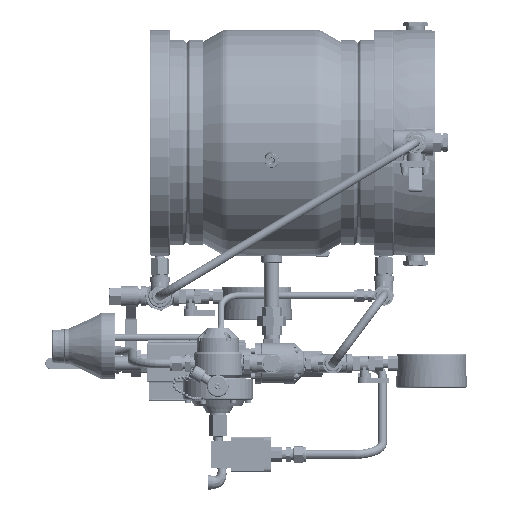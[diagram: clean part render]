
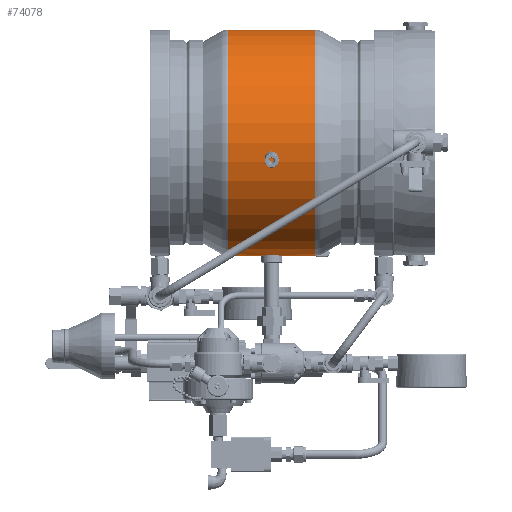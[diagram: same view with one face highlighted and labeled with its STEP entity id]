
A CAD part, front view. The second image highlights one B-rep face of the part: STEP entity #74078.
In plain terms, the highlighted cylindrical face has radius 162 mm (diameter 324 mm), a full revolution.
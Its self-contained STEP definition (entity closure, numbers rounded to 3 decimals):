
#2623=B_SPLINE_CURVE_WITH_KNOTS('',3,(#132989,#132990,#132991,#132992,#132993,
#132994,#132995,#132996,#132997,#132998,#132999,#133000,#133001,#133002,
#133003,#133004,#133005,#133006),.UNSPECIFIED.,.F.,.F.,(4,2,2,2,2,2,2,2,
4),(2.111,2.638,3.166,3.694,
4.221,4.749,5.276,5.804,6.332),
 .UNSPECIFIED.);
#2624=B_SPLINE_CURVE_WITH_KNOTS('',3,(#133007,#133008,#133009,#133010,#133011,
#133012,#133013,#133014,#133015,#133016,#133017,#133018,#133019,#133020,
#133021,#133022,#133023,#133024,#133025),.UNSPECIFIED.,.F.,.F.,(4,2,2,2,
3,2,2,2,4),(6.332,6.859,7.387,7.915,
8.442,8.97,9.498,10.025,10.553),
 .UNSPECIFIED.);
#3602=CYLINDRICAL_SURFACE('',#83139,162.);
#18590=FACE_BOUND('',#28273,.T.);
#18591=FACE_BOUND('',#28274,.T.);
#22425=FACE_OUTER_BOUND('',#28272,.T.);
#28272=EDGE_LOOP('',(#64072));
#28273=EDGE_LOOP('',(#64073,#64074));
#28274=EDGE_LOOP('',(#64075));
#32107=CIRCLE('',#83138,162.);
#32108=CIRCLE('',#83140,162.);
#38015=VERTEX_POINT('',#132987);
#38016=VERTEX_POINT('',#132988);
#38038=VERTEX_POINT('',#133121);
#38039=VERTEX_POINT('',#133124);
#47067=EDGE_CURVE('',#38015,#38016,#2623,.T.);
#47068=EDGE_CURVE('',#38016,#38015,#2624,.T.);
#47090=EDGE_CURVE('',#38038,#38038,#32107,.T.);
#47091=EDGE_CURVE('',#38039,#38039,#32108,.T.);
#64072=ORIENTED_EDGE('',*,*,#47091,.F.);
#64073=ORIENTED_EDGE('',*,*,#47067,.T.);
#64074=ORIENTED_EDGE('',*,*,#47068,.T.);
#64075=ORIENTED_EDGE('',*,*,#47090,.F.);
#74078=ADVANCED_FACE('',(#22425,#18590,#18591),#3602,.T.);
#83138=AXIS2_PLACEMENT_3D('',#133122,#99801,#99802);
#83139=AXIS2_PLACEMENT_3D('',#133123,#99803,#99804);
#83140=AXIS2_PLACEMENT_3D('',#133125,#99805,#99806);
#99801=DIRECTION('center_axis',(1.,0.,0.));
#99802=DIRECTION('ref_axis',(0.,-1.,0.));
#99803=DIRECTION('center_axis',(1.,0.,0.));
#99804=DIRECTION('ref_axis',(0.,1.,0.));
#99805=DIRECTION('center_axis',(-1.,0.,0.));
#99806=DIRECTION('ref_axis',(0.,-1.,0.));
#132987=CARTESIAN_POINT('',(144.282,-79.384,162.));
#132988=CARTESIAN_POINT('',(172.282,-79.384,162.));
#132989=CARTESIAN_POINT('Ctrl Pts',(144.282,-79.384,
162.));
#132990=CARTESIAN_POINT('Ctrl Pts',(144.282,-77.625,
162.));
#132991=CARTESIAN_POINT('Ctrl Pts',(144.634,-75.75,
161.968));
#132992=CARTESIAN_POINT('Ctrl Pts',(146.063,-72.301,161.854));
#132993=CARTESIAN_POINT('Ctrl Pts',(147.14,-70.727,
161.773));
#132994=CARTESIAN_POINT('Ctrl Pts',(149.625,-68.242,
161.621));
#132995=CARTESIAN_POINT('Ctrl Pts',(151.199,-67.165,
161.54));
#132996=CARTESIAN_POINT('Ctrl Pts',(154.648,-65.736,
161.426));
#132997=CARTESIAN_POINT('Ctrl Pts',(156.524,-65.384,
161.394));
#132998=CARTESIAN_POINT('Ctrl Pts',(160.041,-65.384,
161.394));
#132999=CARTESIAN_POINT('Ctrl Pts',(161.917,-65.736,
161.426));
#133000=CARTESIAN_POINT('Ctrl Pts',(165.366,-67.165,
161.54));
#133001=CARTESIAN_POINT('Ctrl Pts',(166.939,-68.242,
161.621));
#133002=CARTESIAN_POINT('Ctrl Pts',(169.424,-70.727,
161.773));
#133003=CARTESIAN_POINT('Ctrl Pts',(170.502,-72.301,
161.854));
#133004=CARTESIAN_POINT('Ctrl Pts',(171.931,-75.75,
161.968));
#133005=CARTESIAN_POINT('Ctrl Pts',(172.282,-77.625,
162.));
#133006=CARTESIAN_POINT('Ctrl Pts',(172.282,-79.384,
162.));
#133007=CARTESIAN_POINT('Ctrl Pts',(172.282,-79.384,
162.));
#133008=CARTESIAN_POINT('Ctrl Pts',(172.282,-81.143,
162.));
#133009=CARTESIAN_POINT('Ctrl Pts',(171.931,-83.018,
161.968));
#133010=CARTESIAN_POINT('Ctrl Pts',(170.502,-86.467,
161.854));
#133011=CARTESIAN_POINT('Ctrl Pts',(169.424,-88.041,
161.773));
#133012=CARTESIAN_POINT('Ctrl Pts',(166.939,-90.526,
161.621));
#133013=CARTESIAN_POINT('Ctrl Pts',(165.366,-91.603,
161.54));
#133014=CARTESIAN_POINT('Ctrl Pts',(161.917,-93.032,
161.426));
#133015=CARTESIAN_POINT('Ctrl Pts',(160.041,-93.384,
161.394));
#133016=CARTESIAN_POINT('Ctrl Pts',(158.282,-93.384,
161.394));
#133017=CARTESIAN_POINT('Ctrl Pts',(156.524,-93.384,
161.394));
#133018=CARTESIAN_POINT('Ctrl Pts',(154.648,-93.032,
161.426));
#133019=CARTESIAN_POINT('Ctrl Pts',(151.199,-91.603,
161.54));
#133020=CARTESIAN_POINT('Ctrl Pts',(149.625,-90.526,
161.621));
#133021=CARTESIAN_POINT('Ctrl Pts',(147.14,-88.041,
161.773));
#133022=CARTESIAN_POINT('Ctrl Pts',(146.063,-86.467,161.854));
#133023=CARTESIAN_POINT('Ctrl Pts',(144.634,-83.018,
161.968));
#133024=CARTESIAN_POINT('Ctrl Pts',(144.282,-81.143,
162.));
#133025=CARTESIAN_POINT('Ctrl Pts',(144.282,-79.384,
162.));
#133121=CARTESIAN_POINT('',(220.947,82.616,0.));
#133122=CARTESIAN_POINT('Origin',(220.947,-79.384,0.));
#133123=CARTESIAN_POINT('Origin',(158.282,-79.384,0.));
#133124=CARTESIAN_POINT('',(95.618,82.616,0.));
#133125=CARTESIAN_POINT('Origin',(95.618,-79.384,0.));
